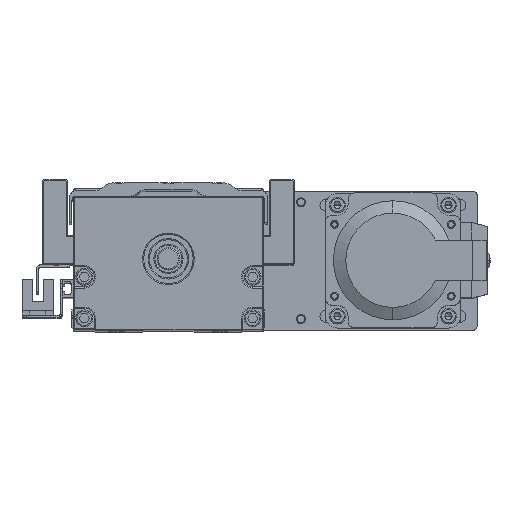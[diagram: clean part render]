
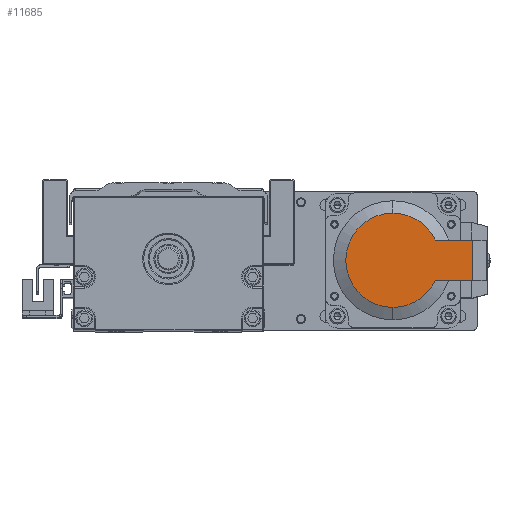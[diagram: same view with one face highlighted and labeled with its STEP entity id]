
A CAD part, top view. The second image highlights one B-rep face of the part: STEP entity #11685.
In plain terms, the highlighted planar face has unit normal (0, 0, 1).
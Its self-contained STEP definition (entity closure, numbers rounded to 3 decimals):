
#3771 = DIRECTION ( 'NONE',  ( 0., 1., 0. ) ) ;
#7074 = ORIENTED_EDGE ( 'NONE', *, *, #45852, .T. ) ;
#7702 = AXIS2_PLACEMENT_3D ( 'NONE', #119980, #118506, #3771 ) ;
#7753 = DIRECTION ( 'NONE',  ( 0., 0., 1. ) ) ;
#11685 = ADVANCED_FACE ( 'NONE', ( #15621 ), #101516, .T. ) ;
#13080 = DIRECTION ( 'NONE',  ( 0., 0., 1. ) ) ;
#14987 = ORIENTED_EDGE ( 'NONE', *, *, #104694, .T. ) ;
#15539 = AXIS2_PLACEMENT_3D ( 'NONE', #66929, #7753, #32206 ) ;
#15621 = FACE_OUTER_BOUND ( 'NONE', #109122, .T. ) ;
#16872 = VERTEX_POINT ( 'NONE', #133297 ) ;
#19644 = CARTESIAN_POINT ( 'NONE',  ( 85.777, 12.277, 500.168 ) ) ;
#26558 = LINE ( 'NONE', #52719, #112287 ) ;
#32206 = DIRECTION ( 'NONE',  ( 0., 1., 0. ) ) ;
#32342 = CARTESIAN_POINT ( 'NONE',  ( 104.751, 3.277, 500.168 ) ) ;
#35092 = CARTESIAN_POINT ( 'NONE',  ( 121.36, 3.277, 500.168 ) ) ;
#35718 = CARTESIAN_POINT ( 'NONE',  ( 121.36, 21.277, 500.168 ) ) ;
#45852 = EDGE_CURVE ( 'NONE', #137721, #16872, #112434, .T. ) ;
#46213 = LINE ( 'NONE', #35092, #95572 ) ;
#49034 = LINE ( 'NONE', #35718, #69089 ) ;
#51546 = EDGE_CURVE ( 'NONE', #66045, #146764, #49034, .T. ) ;
#51819 = CARTESIAN_POINT ( 'NONE',  ( 121.36, 21.277, 500.168 ) ) ;
#52719 = CARTESIAN_POINT ( 'NONE',  ( 121.36, 21.277, 500.168 ) ) ;
#58694 = CARTESIAN_POINT ( 'NONE',  ( 104.751, 21.277, 500.168 ) ) ;
#66045 = VERTEX_POINT ( 'NONE', #58694 ) ;
#66091 = DIRECTION ( 'NONE',  ( 0., 0., 1. ) ) ;
#66929 = CARTESIAN_POINT ( 'NONE',  ( 85.777, 33.277, 500.168 ) ) ;
#69089 = VECTOR ( 'NONE', #128969, 1000. ) ;
#71753 = DIRECTION ( 'NONE',  ( 1., 0., 0. ) ) ;
#73219 = DIRECTION ( 'NONE',  ( 0., 1., 0. ) ) ;
#75094 = EDGE_CURVE ( 'NONE', #66045, #137721, #87392, .T. ) ;
#79949 = CARTESIAN_POINT ( 'NONE',  ( 121.36, 3.277, 500.168 ) ) ;
#87392 = CIRCLE ( 'NONE', #112927, 21. ) ;
#90107 = AXIS2_PLACEMENT_3D ( 'NONE', #141028, #13080, #73219 ) ;
#92552 = ORIENTED_EDGE ( 'NONE', *, *, #51546, .F. ) ;
#95572 = VECTOR ( 'NONE', #71753, 1000. ) ;
#101516 = PLANE ( 'NONE',  #15539 ) ;
#102467 = CARTESIAN_POINT ( 'NONE',  ( 85.777, 33.277, 500.168 ) ) ;
#104694 = EDGE_CURVE ( 'NONE', #145145, #110081, #46213, .T. ) ;
#109122 = EDGE_LOOP ( 'NONE', ( #92552, #130550, #7074, #110541, #14987, #138010 ) ) ;
#110081 = VERTEX_POINT ( 'NONE', #79949 ) ;
#110541 = ORIENTED_EDGE ( 'NONE', *, *, #144844, .T. ) ;
#112287 = VECTOR ( 'NONE', #112839, 1000. ) ;
#112434 = CIRCLE ( 'NONE', #7702, 21. ) ;
#112839 = DIRECTION ( 'NONE',  ( 0., -1., 0. ) ) ;
#112927 = AXIS2_PLACEMENT_3D ( 'NONE', #19644, #66091, #147128 ) ;
#118506 = DIRECTION ( 'NONE',  ( 0., 0., 1. ) ) ;
#119980 = CARTESIAN_POINT ( 'NONE',  ( 85.777, 12.277, 500.168 ) ) ;
#126250 = EDGE_CURVE ( 'NONE', #146764, #110081, #26558, .T. ) ;
#128969 = DIRECTION ( 'NONE',  ( 1., 0., 0. ) ) ;
#130550 = ORIENTED_EDGE ( 'NONE', *, *, #75094, .T. ) ;
#133297 = CARTESIAN_POINT ( 'NONE',  ( 85.777, -8.723, 500.168 ) ) ;
#133827 = CIRCLE ( 'NONE', #90107, 21. ) ;
#137721 = VERTEX_POINT ( 'NONE', #102467 ) ;
#138010 = ORIENTED_EDGE ( 'NONE', *, *, #126250, .F. ) ;
#141028 = CARTESIAN_POINT ( 'NONE',  ( 85.777, 12.277, 500.168 ) ) ;
#144844 = EDGE_CURVE ( 'NONE', #16872, #145145, #133827, .T. ) ;
#145145 = VERTEX_POINT ( 'NONE', #32342 ) ;
#146764 = VERTEX_POINT ( 'NONE', #51819 ) ;
#147128 = DIRECTION ( 'NONE',  ( 0., 1., 0. ) ) ;
